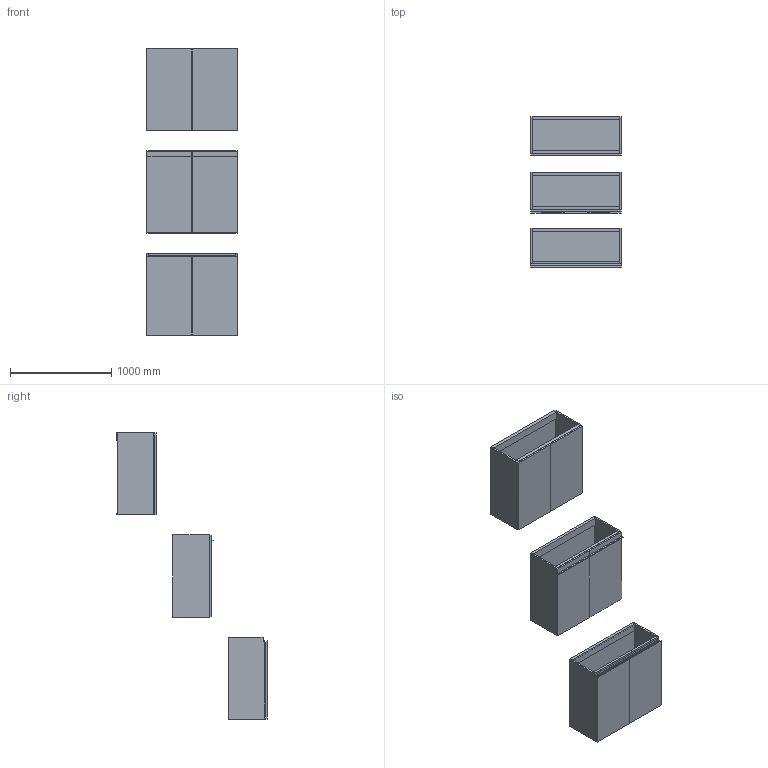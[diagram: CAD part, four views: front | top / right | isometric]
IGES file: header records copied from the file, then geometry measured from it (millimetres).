
Start section: Data from Parasolid IGES Translator 19.0.9, Copyright(c) 2006 Siemens PL M Software. All Rights Reserved.
Global section: file name: noorth-SI-H 81,2 D 38,8 W 90_8681.igs; native system: By Siemens PLM Incorporated; preprocessor: XPlus GENERIC/IGES 19.0.9; author: Noname; organization: Noname; date: 20200601.123017; units: metre
Bounding box: 900 x 1486.1 x 2832.01 mm (x, y, z)
Volume: 98117887.8 mm3; surface area: 15449623.9 mm2
Topology: 27 solids, 27 shells, 264 faces, 566 edges, 336 vertices
Faces by surface type: plane 180, extrusion 32, bspline 32, cylinder 20
